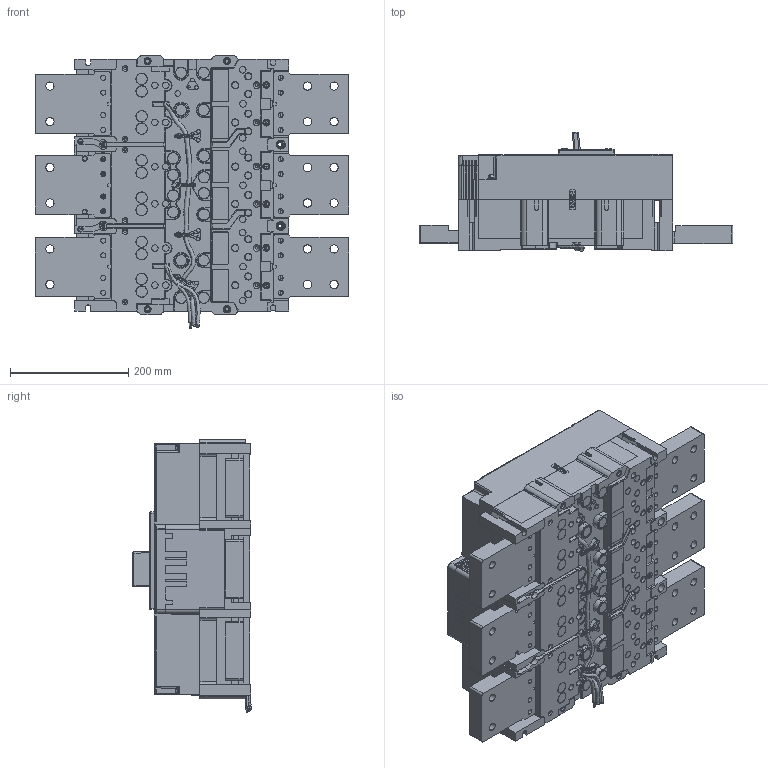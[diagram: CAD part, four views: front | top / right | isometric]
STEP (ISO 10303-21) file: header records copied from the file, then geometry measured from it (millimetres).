
FILE_DESCRIPTION (( 'STEP AP203' ), '1' );
FILE_NAME ('ﾂﾀ55(53)-43 (2000ﾀ).STEP', '2014-12-04T07:16:07', ( 'admin' ), ( '' ), 'SwSTEP 2.0', 'SolidWorks 2007', '' );
FILE_SCHEMA (( 'CONFIG_CONTROL_DESIGN' ));
Products named in the file (1): ﾂﾀ55(53)-43 (2000ﾀ)
Bounding box: 530 x 201.4 x 460.79 mm (x, y, z)
Surface area: 1347383.5 mm2 (no closed solid volume)
Topology: 0 solids, 398 shells, 2283 faces, 14090 edges, 12096 vertices
Faces by surface type: plane 1190, cylinder 779, bspline 128, cone 96, torus 79, sphere 11
Entity records: 164007 total; most frequent: CARTESIAN_POINT 63431, DIRECTION 18184, ORIENTED_EDGE 18042, EDGE_CURVE 14075, VERTEX_POINT 12096, VECTOR 9152, LINE 9152, AXIS2_PLACEMENT_3D 4516
